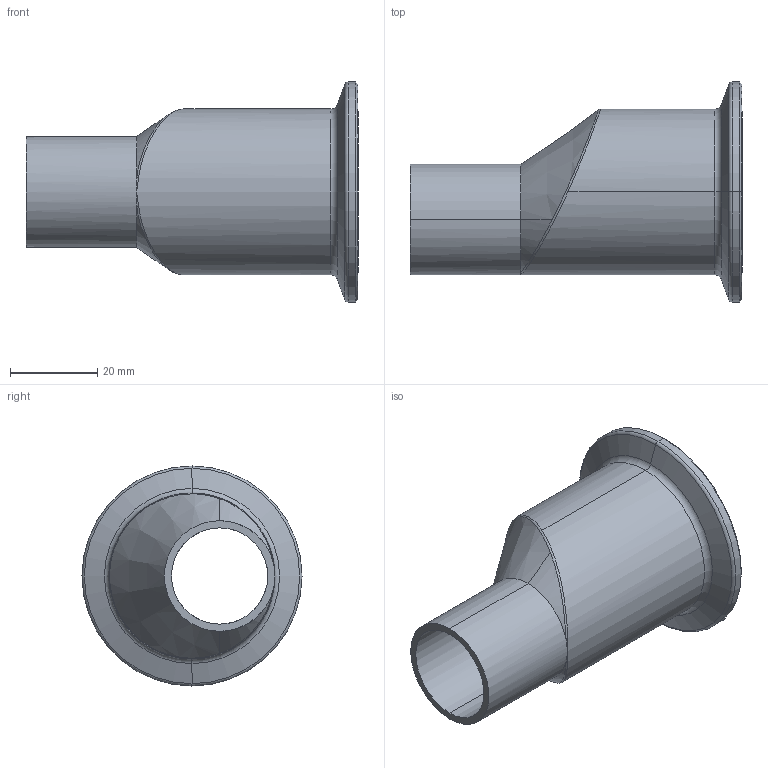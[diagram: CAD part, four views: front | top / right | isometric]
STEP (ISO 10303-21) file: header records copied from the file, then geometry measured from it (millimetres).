
FILE_DESCRIPTION (( 'STEP AP214' ), '1' );
FILE_NAME ('TE32SCW6L1.5x1.0-...STEP', '2016-06-01T08:56:36', ( 'eran' ), ( '' ), 'SwSTEP 2.0', 'SolidWorks 2016', '' );
FILE_SCHEMA (( 'AUTOMOTIVE_DESIGN' ));
Length unit declared in the file: millimetre
Products named in the file (1): TE32SCW6L1.5x1.0-..
Bounding box: 76.2 x 50.5 x 50.5 mm (x, y, z)
Volume: 30181 mm3; surface area: 16210.9 mm2
Topology: 1 solids, 1 shells, 47 faces, 104 edges, 56 vertices
Faces by surface type: cone 16, torus 13, cylinder 10, bspline 5, plane 3
Entity records: 1960 total; most frequent: CARTESIAN_POINT 923, DIRECTION 228, ORIENTED_EDGE 200, AXIS2_PLACEMENT_3D 102, EDGE_CURVE 100, CIRCLE 59, VERTEX_POINT 56, EDGE_LOOP 50
